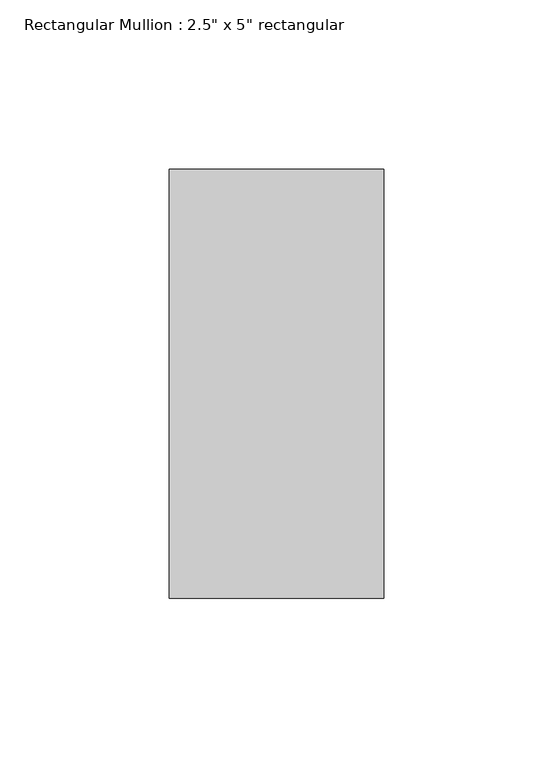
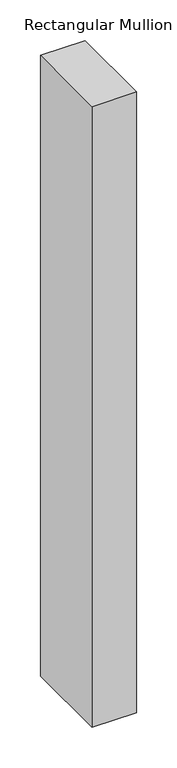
"""IFC4 building model written with IfcOpenShell, lengths in millimetres: member geometry."""

from ifc_helpers import new_model, si_unit, frame, origin, place, context, project, spatial, polyline, outline, extrude, source, transform, mapped, element, save


def member_c7d2ba5d(model_context):
    return source(origin(), model_context, "Body", "SweptSolid", [
        extrude(outline(polyline([(31.75, 63.5), (31.75, -63.5), (-31.75, -63.5), (-31.75, 63.5), (31.75, 63.5)])), frame((0.0, 0.0, -933.45), z_axis=(0.0, 0.0, 1.0), x_axis=(1.0, 0.0, 0.0)), (0.0, 0.0, 1.0), 933.45),
    ])


if __name__ == "__main__":
    model = new_model("IFC4")
    model_context = context("Model", 3, world=origin())
    ifc_project = project(units=[si_unit("LENGTHUNIT", "METRE", prefix="MILLI")], contexts=[model_context])
    site = spatial("IfcSite", under=ifc_project)
    building = spatial("IfcBuilding", under=site)
    placement = place(None, origin())
    member_shape = member_c7d2ba5d(model_context)
    element("IfcMember", 1, ObjectType="Rectangular Mullion : 2.5\" x 5\" rectangular", at=placement, inside=building, context=model_context, shape_type="MappedRepresentation", body=[
        mapped(member_shape, transform((0.0, 0.0, 0.0), x_axis=(1.0, 0.0, 0.0), y_axis=(0.0, 1.0, 0.0), z_axis=(0.0, 0.0, 1.0))),
    ])
    save(model, "model.ifc")
